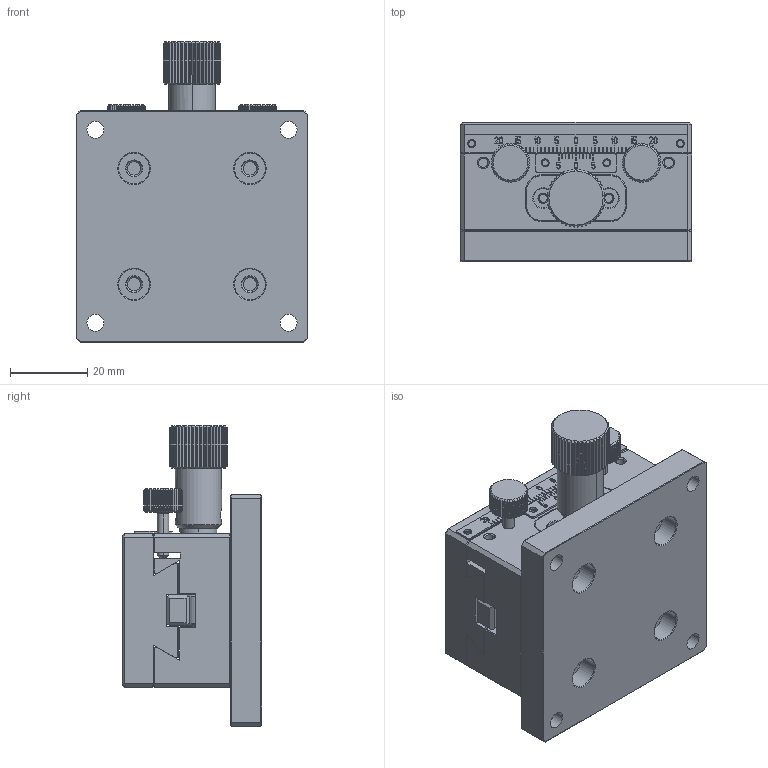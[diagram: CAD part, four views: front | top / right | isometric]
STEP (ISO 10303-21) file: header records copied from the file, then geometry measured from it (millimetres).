
FILE_DESCRIPTION((''),'2;1');
FILE_NAME('ASSY-40-60-ST40-MSM_ASM','2021-11-11T18:46:30',('windows10'),(''),'CREO PARAMETRIC BY PTC INC, 2018260','CREO PARAMETRIC BY PTC INC, 2018260','');
FILE_SCHEMA(('CONFIG_CONTROL_DESIGN'));
Length unit declared in the file: millimetre
Products named in the file (14): BOTTOM-40-60-F-MSM; HOLDER-PINION-4D5; PINION-4-29; WHASHER-9D6-4D1-1D2; HANDLE-15-26D6; ASSY-HANDLE-15-47D8_ASM; TOP-40-60-M-MSM; RACK-8-6-60; ASSY-TOP-40-60-M-MSM_ASM; RULER-PLATE-60-TOP; RULER-PLATE-21-BOTTOM; STOPPER-10-M3-18; BASE-60; ASSY-40-60-ST40-MSM_ASM
Assembly tree (14 placements, depth 3):
  ASSY-40-60-ST40-MSM_ASM
    BOTTOM-40-60-F-MSM
    ASSY-HANDLE-15-47D8_ASM
      HOLDER-PINION-4D5
      PINION-4-29
      WHASHER-9D6-4D1-1D2
      HANDLE-15-26D6
    ASSY-TOP-40-60-M-MSM_ASM
      TOP-40-60-M-MSM
      RACK-8-6-60
    RULER-PLATE-60-TOP
    RULER-PLATE-21-BOTTOM
    STOPPER-10-M3-18  x2
    BASE-60
Bounding box: 60 x 36 x 77.8 mm (x, y, z)
Volume: 93982.5 mm3; surface area: 38942.2 mm2
Topology: 12 solids, 12 shells, 1757 faces, 4820 edges, 3141 vertices
Faces by surface type: plane 1306, cylinder 307, cone 136, bspline 4, sphere 4
Entity records: 51877 total; most frequent: CARTESIAN_POINT 10976, ORIENTED_EDGE 8766, DIRECTION 7925, EDGE_CURVE 4383, VECTOR 3353, LINE 3353, VERTEX_POINT 2858, AXIS2_PLACEMENT_3D 2286
